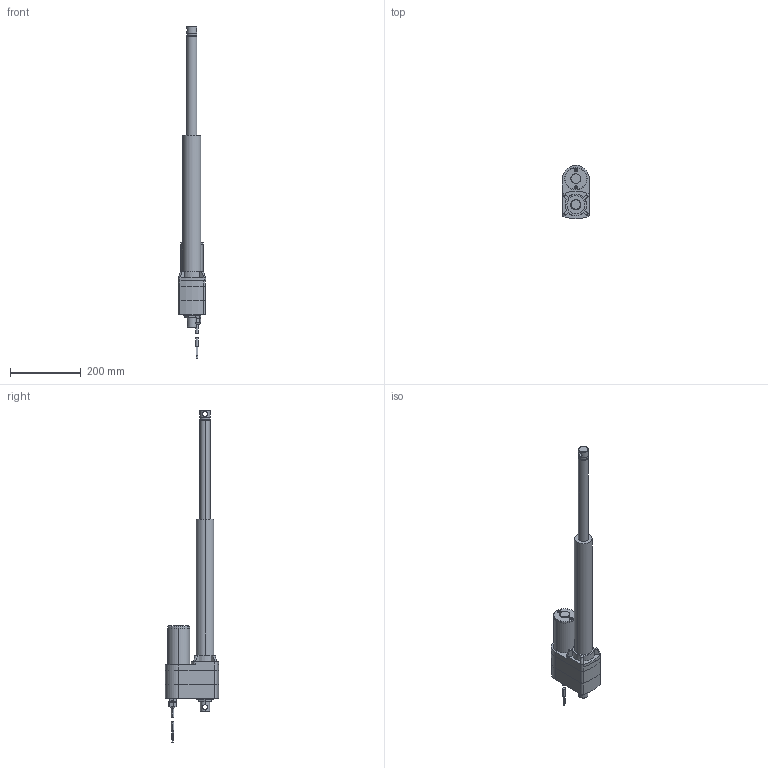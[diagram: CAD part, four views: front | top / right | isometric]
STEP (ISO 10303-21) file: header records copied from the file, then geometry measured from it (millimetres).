
FILE_DESCRIPTION (( 'STEP AP203' ), '1' );
FILE_NAME ('LA10_BALL_12_POTx.step', '2021-02-24T15:36:07', ( '' ), ( '' ), 'SwSTEP 2.0', 'SolidWorks 2017', '' );
FILE_SCHEMA (( 'CONFIG_CONTROL_DESIGN' ));
Length unit declared in the file: millimetre
Products named in the file (1): LA10_BALL_12_POTx
Bounding box: 77.22 x 151.29 x 941.53 mm (x, y, z)
Volume: 2497253 mm3; surface area: 249671.2 mm2
Topology: 14 solids, 14 shells, 345 faces, 740 edges, 460 vertices
Faces by surface type: plane 162, cylinder 115, cone 24, bspline 22, torus 18, sphere 4
Entity records: 11368 total; most frequent: CARTESIAN_POINT 3734, DIRECTION 1643, ORIENTED_EDGE 1480, EDGE_CURVE 740, AXIS2_PLACEMENT_3D 649, VERTEX_POINT 460, EDGE_LOOP 390, VECTOR 345
